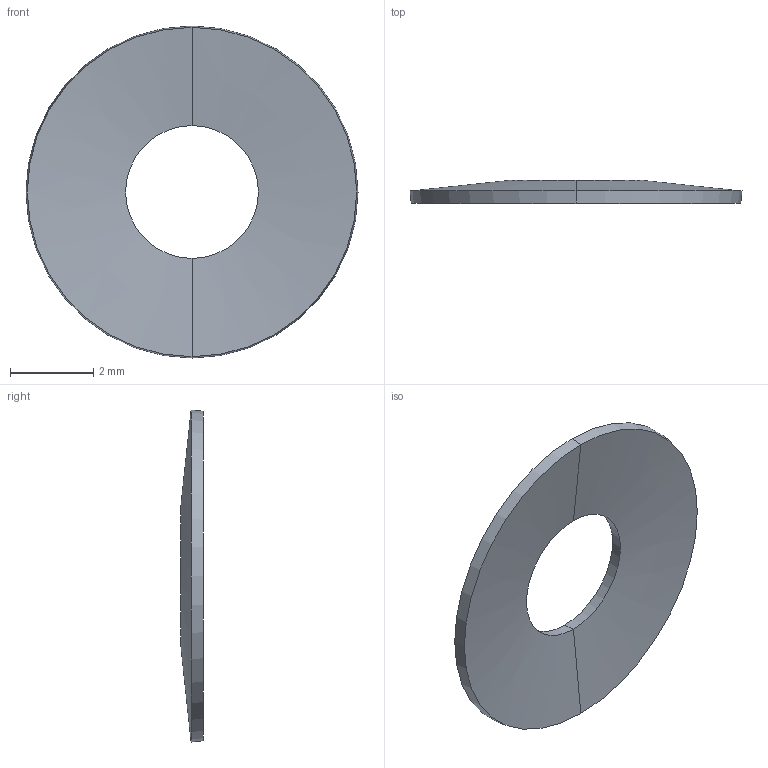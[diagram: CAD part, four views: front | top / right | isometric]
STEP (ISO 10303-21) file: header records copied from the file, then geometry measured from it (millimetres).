
FILE_DESCRIPTION (( 'STEP AP203' ), '1' );
FILE_NAME ('96445K157.STEP', '2018-02-26T15:36:26', ( '' ), ( '' ), 'SwSTEP 2.0', 'SolidWorks 2014', '' );
FILE_SCHEMA (( 'CONFIG_CONTROL_DESIGN' ));
Length unit declared in the file: millimetre
Products named in the file (1): 96445K157
Bounding box: 8 x 0.55 x 8 mm (x, y, z)
Volume: 12.6 mm3; surface area: 94.4 mm2
Topology: 1 solids, 1 shells, 8 faces, 16 edges, 8 vertices
Faces by surface type: cone 8
Entity records: 285 total; most frequent: DIRECTION 42, CARTESIAN_POINT 33, ORIENTED_EDGE 32, AXIS2_PLACEMENT_3D 17, EDGE_CURVE 16, CONICAL_SURFACE 8, PERSON_AND_ORGANIZATION 8, EDGE_LOOP 8
